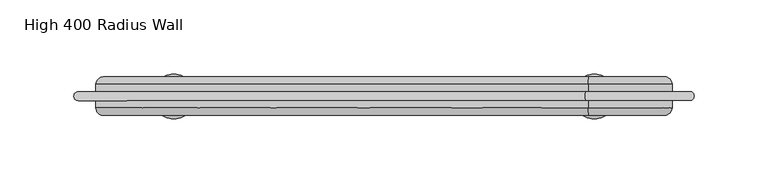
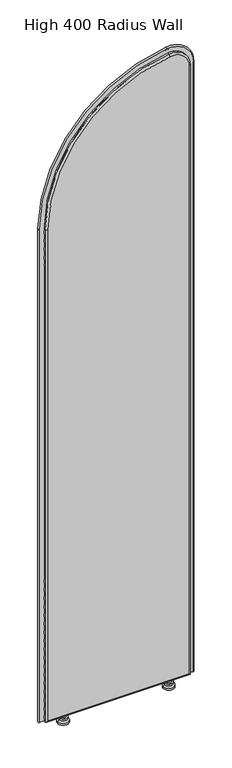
"""IFC4 building model written with IfcOpenShell, lengths in millimetres: furniture geometry, DBLTD_Sixteen3_PrivacyScreens_Artus_ArchRadius : High 400 Radius Wall."""

import ifcopenshell
import ifcopenshell.guid

model = None  # the IFC model being written
_history = None  # IfcOwnerHistory: only IFC2X3 demands one
_inside = {}  # id of a spatial element -> (the spatial element, [elements in it])
_under = {}  # id of a project, library or spatial element -> (it, [spatial elements below it])
_declared = {}  # id of a project -> (the project, [libraries it declares])
_typed = {}  # id of a type object -> (the type object, [elements of that type])
_made_of = {}  # id of a material, layer set ... -> (it, [elements and type objects made of it])


def new_model(schema):
    """Start an empty IFC model of exactly this schema.

    Asked for "IFC4X3", IfcOpenShell would pick the latest addendum, in which some entities
    have other attributes; the version numbers below select the first issue.
    IFC2X3 requires an IfcOwnerHistory on every rooted entity: one is made here for all.
    """
    global model, _history
    if schema == "IFC4X3":
        model = ifcopenshell.file(schema_version=(4, 3, 0, 0))
    else:
        model = ifcopenshell.file(schema=schema)
    _inside.clear()
    _under.clear()
    _declared.clear()
    _typed.clear()
    _made_of.clear()
    _history = None
    if model.schema == "IFC2X3":
        org = make("IfcOrganization", Name="unknown")
        user = make(
            "IfcPersonAndOrganization",
            ThePerson=make("IfcPerson", FamilyName="unknown"),
            TheOrganization=org,
        )
        app = make(
            "IfcApplication",
            ApplicationDeveloper=org,
            Version="unknown",
            ApplicationFullName="unknown",
            ApplicationIdentifier="unknown",
        )
        _history = make(
            "IfcOwnerHistory",
            OwningUser=user,
            OwningApplication=app,
            ChangeAction="ADDED",
            CreationDate=0,
        )
    return model


def make(cls, **values):
    """One entity of the class cls with the attributes given. An attribute that is None is left unset."""
    return model.create_entity(
        cls, **{name: value for name, value in values.items() if value is not None}
    )


def rooted(cls, **values):
    """An entity with a GlobalId (a new one), such as an element, a storey or a relation."""
    return make(cls, GlobalId=ifcopenshell.guid.new(), OwnerHistory=_history, **values)


def si_unit(unit_type, name, prefix=None):
    """IfcSIUnit, for example si_unit("LENGTHUNIT", "METRE", prefix="MILLI")."""
    return make("IfcSIUnit", UnitType=unit_type, Prefix=prefix, Name=name)


def assignment(units):
    """IfcUnitAssignment: the units of a project."""
    return None if units is None else make("IfcUnitAssignment", Units=units)


def point(xyz):
    """IfcCartesianPoint."""
    return None if xyz is None else make("IfcCartesianPoint", Coordinates=xyz)


def direction(xyz):
    """IfcDirection."""
    return None if xyz is None else make("IfcDirection", DirectionRatios=xyz)


def frame(location, z_axis=None, x_axis=None):
    """IfcAxis2Placement3D, a coordinate frame: its origin and axes. An axis left out is left unset."""
    return make(
        "IfcAxis2Placement3D",
        Location=point(location),
        Axis=direction(z_axis),
        RefDirection=direction(x_axis),
    )


def origin():
    """The frame at (0, 0, 0) with its axes left unset."""
    return frame((0.0, 0.0, 0.0))


def place(relative_to, where):
    """IfcLocalPlacement: puts the frame where relative to a parent placement (None: the world)."""
    return make(
        "IfcLocalPlacement", PlacementRelTo=relative_to, RelativePlacement=where
    )


def context(
    kind, dimensions, precision=None, world=None, true_north=None, identifier=None
):
    """IfcGeometricRepresentationContext, for example the 3D "Model" context."""
    return make(
        "IfcGeometricRepresentationContext",
        ContextIdentifier=identifier,
        ContextType=kind,
        CoordinateSpaceDimension=dimensions,
        Precision=precision,
        WorldCoordinateSystem=world,
        TrueNorth=true_north,
    )


def project(units=None, contexts=None):
    """IfcProject with its units and contexts."""
    return rooted(
        "IfcProject",
        Name="project",
        RepresentationContexts=contexts,
        UnitsInContext=assignment(units),
    )


def spatial(cls, under=None, at=None, **own):
    """A site, building, storey or space (cls), placed at a placement, below another one or the project."""
    s = rooted(cls, ObjectPlacement=at, **own)
    if under is not None:
        _under.setdefault(under.id(), (under, []))[1].append(s)
    return s


def polyline(points):
    """IfcPolyline through the points."""
    return make("IfcPolyline", Points=[point(p) for p in points])


def circle_curve(where, radius):
    """IfcCircle in the frame where."""
    return make("IfcCircle", Position=where, Radius=radius)


def ellipse_curve(where, semi_axis1, semi_axis2):
    """IfcEllipse in the frame where."""
    return make(
        "IfcEllipse", Position=where, SemiAxis1=semi_axis1, SemiAxis2=semi_axis2
    )


def trimmed(basis, trim1, trim2, sense, master):
    """IfcTrimmedCurve: the piece of a basis curve between two trims."""
    return make(
        "IfcTrimmedCurve",
        BasisCurve=basis,
        Trim1=trim1,
        Trim2=trim2,
        SenseAgreement=sense,
        MasterRepresentation=master,
    )


def shape(context_of_items, identifier, shape_type, items):
    """IfcShapeRepresentation: the items that make up one representation, for example the "Body"."""
    return make(
        "IfcShapeRepresentation",
        ContextOfItems=context_of_items,
        RepresentationIdentifier=identifier,
        RepresentationType=shape_type,
        Items=items,
    )


def source(mapping_origin, context_of_items, identifier, shape_type, items):
    """IfcRepresentationMap: a shape defined once, which mapped items show again and again."""
    return make(
        "IfcRepresentationMap",
        MappingOrigin=mapping_origin,
        MappedRepresentation=shape(context_of_items, identifier, shape_type, items),
    )


def transform(
    local_origin,
    x_axis=None,
    y_axis=None,
    z_axis=None,
    scale=None,
    scale2=None,
    scale3=None,
    uniform=True,
):
    """IfcCartesianTransformationOperator3D, or its non-uniform kind. x_axis, y_axis, z_axis: its Axis1, 2, 3."""
    if uniform:
        return make(
            "IfcCartesianTransformationOperator3D",
            Axis1=direction(x_axis),
            Axis2=direction(y_axis),
            LocalOrigin=point(local_origin),
            Scale=scale,
            Axis3=direction(z_axis),
        )
    return make(
        "IfcCartesianTransformationOperator3DnonUniform",
        Axis1=direction(x_axis),
        Axis2=direction(y_axis),
        LocalOrigin=point(local_origin),
        Scale=scale,
        Axis3=direction(z_axis),
        Scale2=scale2,
        Scale3=scale3,
    )


def mapped(mapping_source, mapping_target):
    """IfcMappedItem: shows the shape of a source again, moved by a transform."""
    return make(
        "IfcMappedItem", MappingSource=mapping_source, MappingTarget=mapping_target
    )


def made_of(thing, what):
    """Note that an element or type object is made of a material, layer set ...; save() writes the relation."""
    if what is not None:
        _made_of.setdefault(what.id(), (what, []))[1].append(thing)
    return thing


def element(
    cls,
    number,
    at=None,
    inside=None,
    cuts=None,
    type_object=None,
    material=None,
    context=None,
    identifier="Body",
    shape_type=None,
    held_by="IfcProductDefinitionShape",
    body=None,
    shapes=None,
    **own,
):
    """One element of the class cls, such as IfcWall. Its Tag is "e" and its number.

    at: its placement. inside: the storey or other place that contains it. cuts: it is an
    opening in that element (IfcRelVoidsElement). A single representation is given by context,
    identifier, shape_type and body (its items); several are given by shapes. held_by: the class
    of the entity that holds the representations. save() writes the other relations.
    """
    e = rooted(cls, Tag="e%d" % number, ObjectPlacement=at, **own)
    if body is not None:
        shapes = [shape(context, identifier, shape_type, body)]
    if shapes is not None:
        e.Representation = make(held_by, Representations=shapes)
    if inside is not None:
        _inside.setdefault(inside.id(), (inside, []))[1].append(e)
    if cuts is not None:
        rooted(
            "IfcRelVoidsElement", RelatingBuildingElement=cuts, RelatedOpeningElement=e
        )
    if type_object is not None:
        _typed.setdefault(type_object.id(), (type_object, []))[1].append(e)
    return made_of(e, material)


def aggregate(whole, parts):
    """IfcRelAggregates: a whole, such as a stair, and the parts it consists of."""
    return rooted("IfcRelAggregates", RelatingObject=whole, RelatedObjects=parts)


def save(model, path):
    """Write the relations noted so far, then the file.

    IfcRelAggregates (storeys below a building ...), IfcRelContainedInSpatialStructure (elements
    in a storey), IfcRelDefinesByType, IfcRelAssociatesMaterial and IfcRelDeclares: one each for
    every whole, place, type object, material and project.
    """
    for whole, parts in _under.values():
        aggregate(whole, parts)
    for where, things in _inside.values():
        rooted(
            "IfcRelContainedInSpatialStructure",
            RelatedElements=things,
            RelatingStructure=where,
        )
    for kind, things in _typed.values():
        rooted("IfcRelDefinesByType", RelatedObjects=things, RelatingType=kind)
    for what, things in _made_of.values():
        rooted("IfcRelAssociatesMaterial", RelatedObjects=things, RelatingMaterial=what)
    for by, libraries in _declared.values():
        rooted("IfcRelDeclares", RelatingContext=by, RelatedDefinitions=libraries)
    model.write(path)


def plane_surface(at):
    """IfcPlane: the flat surface through the origin of the frame at, square to its z axis."""
    return make("IfcPlane", Position=at)


def cylinder_surface(at, radius):
    """IfcCylindricalSurface: all points at the distance radius from the z axis of the frame at."""
    return make("IfcCylindricalSurface", Position=at, Radius=radius)


def revolved_surface(curve, axis_point, axis_direction):
    """IfcSurfaceOfRevolution: the curve turned about the line through axis_point along axis_direction."""
    return make(
        "IfcSurfaceOfRevolution",
        SweptCurve=make("IfcArbitraryOpenProfileDef", ProfileType="CURVE", Curve=curve),
        AxisPosition=make("IfcAxis1Placement", Location=point(axis_point), Axis=direction(axis_direction)),
    )


def advanced_brep(points, edges, surfaces, faces):
    """IfcAdvancedBrep: a solid bounded by faces that lie on surfaces and meet in shared edges.

    An edge is (start, end): straight between two places in points (the first is 0);
    or (start, end, curve); or (start, end, curve, False) where it runs against its curve.
    A face is (place in surfaces, loops), or (place, loops, False) where it looks against
    its surface's normal. A loop lists edges by number (the first is 1), with a minus sign
    where the edge is run from its end to its start. The first loop is the outer one.
    """
    corners = [point(p) for p in points]
    vertices = [make("IfcVertexPoint", VertexGeometry=c) for c in corners]
    made = []
    for start, end, *more in edges:
        made.append(
            make(
                "IfcEdgeCurve",
                EdgeStart=vertices[start],
                EdgeEnd=vertices[end],
                EdgeGeometry=more[0] if more else make("IfcPolyline", Points=[corners[start], corners[end]]),
                SameSense=more[1] if len(more) > 1 else True,
            )
        )
    hull = []
    for where, loops, *sense in faces:
        bounds = []
        for j, loop in enumerate(loops):
            ring = [make("IfcOrientedEdge", EdgeElement=made[abs(k) - 1], Orientation=k > 0) for k in loop]
            bounds.append(
                make(
                    "IfcFaceOuterBound" if j == 0 else "IfcFaceBound",
                    Bound=make("IfcEdgeLoop", EdgeList=ring),
                    Orientation=True,
                )
            )
        hull.append(make("IfcAdvancedFace", Bounds=bounds, FaceSurface=surfaces[where], SameSense=sense[0] if sense else True))
    return make("IfcAdvancedBrep", Outer=make("IfcClosedShell", CfsFaces=hull))


def high_400_radius_wall_c7d0d529(model_context):
    return source(origin(), model_context, "Body", "AdvancedBrep", [
        advanced_brep(
        [(-190.0, 807.0000009, 27.0), (190.0, 807.0000009, 27.0), (190.0, 807.0000009, 1756.9638535), (138.9552239, 807.0000009, 1801.5560129), (-190.0, 807.0000009, 1425.0), (190.0, 833.0000009, 27.0), (-190.0, 833.0000009, 27.0), (-190.0, 833.0000009, 1425.0), (138.9552239, 833.0000009, 1801.5560129), (190.0, 833.0000009, 1756.9638535), (138.2835821, 811.9999969, 1806.5106973), (138.2835821, 828.0000009, 1806.5106973), (-195.0, 828.0000009, 1425.0), (-195.0, 811.9999981, 1425.0), (-195.0, 828.0000009, 22.0), (-195.0, 812.0000009, 22.0), (195.0, 828.0000009, 22.0), (195.0, 812.0000009, 22.0), (195.0, 828.0000009, 1756.9638535), (195.0, 812.0000009, 1756.9638535)],
        [
            (0, 1),
            (1, 2),
            (2, 3, circle_curve(frame((145.0, 807.0000009, 1756.9638535), z_axis=(0.0, -1.0, 0.0), x_axis=(1.0, 0.0, 0.0)), 45.0)),
            (3, 4, circle_curve(frame((190.0, 807.0000009, 1425.0), z_axis=(0.0, -1.0, 0.0), x_axis=(-0.1343283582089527, 0.0, 0.9909368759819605)), 380.0)),
            (4, 0),
            (5, 6),
            (6, 7),
            (7, 8, circle_curve(frame((190.0, 833.0000009, 1425.0), z_axis=(0.0, 1.0, 0.0), x_axis=(-0.1343283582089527, 0.0, 0.9909368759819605)), 380.0)),
            (8, 9, circle_curve(frame((145.0, 833.0000009, 1756.9638535), z_axis=(0.0, 1.0, 0.0), x_axis=(1.0, 0.0, 0.0)), 45.0)),
            (9, 5),
            (10, 11),
            (11, 12, circle_curve(frame((190.0, 828.0000009, 1425.0), z_axis=(0.0, -1.0, 0.0), x_axis=(1.0, 0.0, 0.0)), 385.0)),
            (12, 13),
            (13, 10, circle_curve(frame((190.0, 812.0000009, 1425.0), z_axis=(0.0, 1.0, 0.0), x_axis=(1.0, 0.0, 0.0)), 385.0)),
            (12, 14),
            (14, 15),
            (15, 13),
            (14, 16),
            (16, 17),
            (17, 15),
            (16, 18),
            (18, 19),
            (19, 17),
            (10, 19, circle_curve(frame((145.0, 812.0000009, 1756.9638535), z_axis=(0.0, 1.0, 0.0), x_axis=(1.0, 0.0, 0.0)), 50.0)),
            (18, 11, circle_curve(frame((145.0, 828.0000009, 1756.9638535), z_axis=(0.0, -1.0, 0.0), x_axis=(1.0, 0.0, 0.0)), 50.0)),
            (17, 1, ellipse_curve(frame((190.0, 812.0000009, 27.0), z_axis=(-0.7071067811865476, 0.0, -0.7071067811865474), x_axis=(0.7071067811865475, 0.0, -0.7071067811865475)), 7.0710678, 5.0)),
            (0, 15, ellipse_curve(frame((-190.0, 812.0000009, 27.0), z_axis=(0.7071067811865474, 0.0, -0.7071067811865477), x_axis=(0.7071067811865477, 0.0, 0.7071067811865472)), 7.0710678, 5.0)),
            (5, 16, ellipse_curve(frame((190.0, 828.0000009, 27.0), z_axis=(-0.7071067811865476, 0.0, -0.7071067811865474), x_axis=(0.7071067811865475, 0.0, -0.7071067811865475)), 7.0710678, 5.0)),
            (14, 6, ellipse_curve(frame((-190.0, 828.0000009, 27.0), z_axis=(0.7071067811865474, 0.0, -0.7071067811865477), x_axis=(0.7071067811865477, 0.0, 0.7071067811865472)), 7.0710678, 5.0)),
            (19, 2, circle_curve(frame((190.0, 812.0000009, 1756.9638535), z_axis=(0.0, 0.0, -1.0), x_axis=(1.0, 0.0, 0.0)), 5.0)),
            (9, 18, circle_curve(frame((190.0, 828.0000009, 1756.9638535), z_axis=(0.0, 0.0, -1.0), x_axis=(1.0, 0.0, 0.0)), 5.0)),
            (10, 3, circle_curve(frame((138.9552239, 812.0000009, 1801.5560129), z_axis=(0.9909368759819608, 0.0, 0.1343283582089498), x_axis=(-0.1343283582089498, 0.0, 0.9909368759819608)), 5.0)),
            (8, 11, circle_curve(frame((138.9552239, 828.0000009, 1801.5560129), z_axis=(0.9909368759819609, 0.0, 0.1343283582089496), x_axis=(-0.1343283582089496, 0.0, 0.9909368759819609)), 5.0)),
            (13, 4, circle_curve(frame((-190.0, 812.0000009, 1425.0), z_axis=(0.0, 0.0, 1.0), x_axis=(-1.0, 0.0, 0.0)), 5.0)),
            (7, 12, circle_curve(frame((-190.0, 828.0000009, 1425.0), z_axis=(0.0, 0.0, 1.0), x_axis=(-1.0, 0.0, 0.0)), 5.0)),
        ],
        [
            plane_surface(frame((-195.0, 807.0000009, 22.0), z_axis=(0.0, -1.0, 0.0), x_axis=(0.0, 0.0, -1.0))),
            plane_surface(frame((-195.0, 833.0000009, 22.0), z_axis=(0.0, 1.0, 0.0), x_axis=(0.0, 0.0, 1.0))),
            cylinder_surface(frame((190.0, 833.0000009, 1425.0), z_axis=(0.0, -1.0, 0.0), x_axis=(1.0, 0.0, 0.0)), 385.0),
            plane_surface(frame((-195.0, 807.0000009, 1425.0), z_axis=(-1.0, 0.0, 0.0), x_axis=(0.0, 1.0, 0.0))),
            plane_surface(frame((-195.0, 807.0000009, 22.0), z_axis=(0.0, 0.0, -1.0), x_axis=(0.0, 1.0, 0.0))),
            plane_surface(frame((195.0, 807.0000009, 22.0), z_axis=(1.0, 0.0, 0.0), x_axis=(0.0, 1.0, 0.0))),
            cylinder_surface(frame((145.0, 833.0000009, 1756.9638535), z_axis=(0.0, -1.0, 0.0), x_axis=(1.0, 0.0, 0.0)), 50.0),
            cylinder_surface(frame((-195.0, 812.0000009, 27.0), z_axis=(1.0, 0.0, 0.0), x_axis=(0.0, 0.0, -1.0)), 5.0),
            cylinder_surface(frame((-195.0, 828.0000009, 27.0), z_axis=(1.0, 0.0, 0.0), x_axis=(0.0, 0.0, -1.0)), 5.0),
            cylinder_surface(frame((190.0, 812.0000009, 22.0), z_axis=(0.0, 0.0, 1.0), x_axis=(1.0, 0.0, 0.0)), 5.0),
            cylinder_surface(frame((190.0, 828.0000009, 22.0), z_axis=(0.0, 0.0, 1.0), x_axis=(1.0, 0.0, 0.0)), 5.0),
            revolved_surface(trimmed(ellipse_curve(frame((190.0, 812.0000009, 1756.9638535), z_axis=(0.0, 0.0, -1.0), x_axis=(1.0, 0.0, 0.0)), 5.0, 5.0), [point((195.0, 812.0000009, 1756.9638535))], [point((190.0, 807.0000009, 1756.9638535))], True, "CARTESIAN"), (145.0, 807.0000009, 1756.9638535), (0.0, -1.0, 0.0)),
            revolved_surface(trimmed(ellipse_curve(frame((190.0, 828.0000009, 1756.9638535), z_axis=(0.0, 0.0, -1.0), x_axis=(1.0, 0.0, 0.0)), 5.0, 5.0), [point((190.0, 833.0000009, 1756.9638535))], [point((195.0, 828.0000009, 1756.9638535))], True, "CARTESIAN"), (145.0, 807.0000009, 1756.9638535), (0.0, -1.0, 0.0)),
            revolved_surface(trimmed(ellipse_curve(frame((138.9552239, 812.0000009, 1801.5560129), z_axis=(0.9909368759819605, 0.0, 0.13432835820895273), x_axis=(-0.13432835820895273, 0.0, 0.9909368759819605)), 5.0, 5.0), [point((138.2835821, 812.0000009, 1806.5106973))], [point((138.9552239, 807.0000009, 1801.5560129))], True, "CARTESIAN"), (190.0, 807.0000009, 1425.0), (0.0, -1.0, 0.0)),
            revolved_surface(trimmed(ellipse_curve(frame((138.9552239, 828.0000009, 1801.5560129), z_axis=(0.9909368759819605, 0.0, 0.13432835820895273), x_axis=(-0.13432835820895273, 0.0, 0.9909368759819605)), 5.0, 5.0), [point((138.9552239, 833.0000009, 1801.5560129))], [point((138.2835821, 828.0000009, 1806.5106973))], True, "CARTESIAN"), (190.0, 807.0000009, 1425.0), (0.0, -1.0, 0.0)),
            cylinder_surface(frame((-190.0, 812.0000009, 1425.0), z_axis=(0.0, 0.0, -1.0), x_axis=(-1.0, 0.0, 0.0)), 5.0),
            cylinder_surface(frame((-190.0, 828.0000009, 1425.0), z_axis=(0.0, 0.0, -1.0), x_axis=(-1.0, 0.0, 0.0)), 5.0),
        ],
        [
            (0, [[1, 2, 3, 4, 5]]),
            (1, [[6, 7, 8, 9, 10]]),
            (2, [[11, 12, 13, 14]]),
            (3, [[-13, 15, 16, 17]]),
            (4, [[-16, 18, 19, 20]]),
            (5, [[-19, 21, 22, 23]]),
            (6, [[-11, 24, -22, 25]]),
            (7, [[26, -1, 27, -20]]),
            (8, [[28, -18, 29, -6]]),
            (9, [[-26, -23, 30, -2]]),
            (10, [[-28, -10, 31, -21]]),
            (11, [[-30, -24, 32, -3]]),
            (12, [[-31, -9, 33, -25]]),
            (13, [[-32, -14, 34, -4]]),
            (14, [[-33, -8, 35, -12]]),
            (15, [[-27, -5, -34, -17]]),
            (16, [[-29, -15, -35, -7]]),
        ],
    ),
        advanced_brep(
        [(206.9577057, 823.0000009, 22.0), (206.9577057, 817.0000009, 22.0), (195.0, 817.0000009, 22.0), (195.0, 823.0000009, 22.0), (-206.9577057, 823.0000009, 22.0), (-195.0, 823.0000009, 22.0), (-195.0, 817.0000009, 22.0), (-206.9577057, 817.0000009, 22.0), (206.9577057, 823.0000009, 1756.9638535), (206.9577057, 817.0000009, 1756.9638535), (136.6773231, 817.0000009, 1818.3600288), (-206.9577057, 817.0000009, 1425.0), (-195.0, 817.0000009, 1425.0), (138.2835821, 817.0000009, 1806.5106973), (195.0, 817.0000009, 1756.9638535), (195.0, 823.0000009, 1756.9638535), (138.2835821, 823.0000009, 1806.5106973), (-195.0, 823.0000009, 1425.0), (-206.9577057, 823.0000009, 1425.0), (136.6773231, 823.0000009, 1818.3600288)],
        [
            (0, 1, circle_curve(frame((206.9577057, 820.0000009, 22.0), z_axis=(0.0, 0.0, -1.0), x_axis=(1.0, 0.0, 0.0)), 3.0)),
            (1, 2),
            (2, 3),
            (3, 0),
            (4, 5),
            (5, 6),
            (6, 7),
            (7, 4, circle_curve(frame((-206.9577057, 820.0000009, 22.0), z_axis=(0.0, 0.0, -1.0), x_axis=(-1.0, 0.0, 0.0)), 3.0)),
            (0, 8),
            (8, 9, circle_curve(frame((206.9577057, 820.0000009, 1756.9638535), z_axis=(0.0, 0.0, -1.0), x_axis=(1.0, 0.0, 0.0)), 3.0)),
            (9, 1),
            (9, 10, circle_curve(frame((145.0, 817.0000009, 1756.9638535), z_axis=(0.0, -1.0, 0.0), x_axis=(1.0, 0.0, 0.0)), 61.9577057)),
            (10, 11, circle_curve(frame((190.0, 817.0000009, 1425.0), z_axis=(0.0, -1.0, 0.0), x_axis=(-0.1343283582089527, 0.0, 0.9909368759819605)), 396.9577057)),
            (11, 7),
            (6, 12),
            (12, 13, circle_curve(frame((190.0, 817.0000009, 1425.0), z_axis=(0.0, 1.0, 0.0), x_axis=(-0.1343283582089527, 0.0, 0.9909368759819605)), 385.0)),
            (13, 14, circle_curve(frame((145.0, 817.0000009, 1756.9638535), z_axis=(0.0, 1.0, 0.0), x_axis=(1.0, 0.0, 0.0)), 50.0)),
            (14, 2),
            (14, 15),
            (15, 3),
            (15, 16, circle_curve(frame((145.0, 823.0000009, 1756.9638535), z_axis=(0.0, -1.0, 0.0), x_axis=(1.0, 0.0, 0.0)), 50.0)),
            (16, 17, circle_curve(frame((190.0, 823.0000009, 1425.0), z_axis=(0.0, -1.0, 0.0), x_axis=(-0.1343283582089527, 0.0, 0.9909368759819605)), 385.0)),
            (17, 5),
            (4, 18),
            (18, 19, circle_curve(frame((190.0, 823.0000009, 1425.0), z_axis=(0.0, 1.0, 0.0), x_axis=(-0.1343283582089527, 0.0, 0.9909368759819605)), 396.9577057)),
            (19, 8, circle_curve(frame((145.0, 823.0000009, 1756.9638535), z_axis=(0.0, 1.0, 0.0), x_axis=(1.0, 0.0, 0.0)), 61.9577057)),
            (19, 10, circle_curve(frame((136.6773231, 820.0000009, 1818.3600288), z_axis=(0.9909368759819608, 0.0, 0.1343283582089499), x_axis=(-0.1343283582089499, 0.0, 0.9909368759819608)), 3.0)),
            (13, 16),
            (18, 11, circle_curve(frame((-206.9577057, 820.0000009, 1425.0), z_axis=(0.0, 0.0, 1.0), x_axis=(-1.0, 0.0, 0.0)), 3.0)),
            (12, 17),
        ],
        [
            plane_surface(frame((195.0, 807.0000009, 22.0), z_axis=(0.0, 0.0, -1.0), x_axis=(1.0, 0.0, 0.0))),
            plane_surface(frame((-195.0, 807.0000009, 22.0), z_axis=(0.0, 0.0, -1.0), x_axis=(-1.0, 0.0, 0.0))),
            cylinder_surface(frame((206.9577057, 820.0000009, 22.0), z_axis=(0.0, 0.0, -1.0), x_axis=(1.0, 0.0, 0.0)), 3.0),
            plane_surface(frame((206.9577057, 817.0000009, 22.0), z_axis=(0.0, -1.0, 0.0), x_axis=(0.0, 0.0, 1.0))),
            plane_surface(frame((195.0, 817.0000009, 22.0), z_axis=(-1.0, 0.0, 0.0), x_axis=(0.0, 0.0, 1.0))),
            plane_surface(frame((195.0, 823.0000009, 22.0), z_axis=(0.0, 1.0, 0.0), x_axis=(0.0, 0.0, 1.0))),
            revolved_surface(trimmed(ellipse_curve(frame((206.9577057, 820.0000009, 1756.9638535), z_axis=(0.0, 0.0, -1.0), x_axis=(1.0, 0.0, 0.0)), 3.0, 3.0), [point((206.9577057, 823.0000009, 1756.9638535))], [point((206.9577057, 817.0000009, 1756.9638535))], True, "CARTESIAN"), (145.0, 807.0000009, 1756.9638535), (0.0, -1.0, 0.0)),
            revolved_surface(polyline([(195.0, 817.0000009, 1756.9638535), (195.0, 823.0000009, 1756.9638535)]), (145.0, 807.0000009, 1756.9638535), (0.0, -1.0, 0.0)),
            revolved_surface(trimmed(ellipse_curve(frame((136.6773231, 820.0000009, 1818.3600288), z_axis=(0.9909368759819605, 0.0, 0.1343283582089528), x_axis=(-0.1343283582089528, 0.0, 0.9909368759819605)), 3.0, 3.0), [point((136.6773231, 823.0000009, 1818.3600288))], [point((136.6773231, 817.0000009, 1818.3600288))], True, "CARTESIAN"), (190.0, 807.0000009, 1425.0), (0.0, -1.0, 0.0)),
            revolved_surface(polyline([(138.28358208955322, 817.0000009, 1806.5106972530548), (138.28358208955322, 823.0000009, 1806.5106972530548)]), (190.0, 807.0000009, 1425.0), (0.0, -1.0, 0.0)),
            cylinder_surface(frame((-206.9577057, 820.0000009, 1425.0), z_axis=(0.0, 0.0, 1.0), x_axis=(-1.0, 0.0, 0.0)), 3.0),
            plane_surface(frame((-195.0, 817.0000009, 1425.0), z_axis=(1.0, 0.0, 0.0), x_axis=(0.0, 0.0, -1.0))),
        ],
        [
            (0, [[1, 2, 3, 4]]),
            (1, [[5, 6, 7, 8]]),
            (2, [[-1, 9, 10, 11]]),
            (3, [[-2, -11, 12, 13, 14, -7, 15, 16, 17, 18]]),
            (4, [[-3, -18, 19, 20]]),
            (5, [[-4, -20, 21, 22, 23, -5, 24, 25, 26, -9]]),
            (6, [[-12, -10, -26, 27]]),
            (7, [[-21, -19, -17, 28]]),
            (8, [[-13, -27, -25, 29]]),
            (9, [[-22, -28, -16, 30]]),
            (10, [[-29, -24, -8, -14]]),
            (11, [[-30, -15, -6, -23]]),
        ],
    ),
        advanced_brep(
        [(142.2938623, 820.0, 22.0), (149.2938623, 820.0, 22.0), (135.2938623, 820.0, 22.0), (149.2938623, 820.0, 15.0), (135.2938623, 820.0, 15.0), (153.744562, 820.0, 15.0), (130.8431626, 820.0, 15.0), (153.744562, 820.0, 10.0), (130.8431626, 820.0, 10.0), (157.2938623, 820.0, 5.0), (127.2938623, 820.0, 5.0), (157.2938623, 820.0, 0.0), (127.2938623, 820.0, 0.0), (142.2938623, 820.0, 0.0)],
        [
            (0, 1),
            (1, 2, circle_curve(frame((142.2938623, 820.0, 22.0), z_axis=(0.0, 0.0, 1.0), x_axis=(1.0, 0.0, 0.0)), 7.0)),
            (2, 0),
            (2, 1, circle_curve(frame((142.2938623, 820.0, 22.0), z_axis=(0.0, 0.0, 1.0), x_axis=(1.0, 0.0, 0.0)), 7.0)),
            (1, 3),
            (3, 4, circle_curve(frame((142.2938623, 820.0, 15.0), z_axis=(0.0, 0.0, 1.0), x_axis=(1.0, 0.0, 0.0)), 7.0)),
            (4, 2),
            (4, 3, circle_curve(frame((142.2938623, 820.0, 15.0), z_axis=(0.0, 0.0, 1.0), x_axis=(1.0, 0.0, 0.0)), 7.0)),
            (3, 5),
            (5, 6, circle_curve(frame((142.2938623, 820.0, 15.0), z_axis=(0.0, 0.0, 1.0), x_axis=(1.0, 0.0, 0.0)), 11.4506997)),
            (6, 4),
            (6, 5, circle_curve(frame((142.2938623, 820.0, 15.0), z_axis=(0.0, 0.0, 1.0), x_axis=(1.0, 0.0, 0.0)), 11.4506997)),
            (5, 7),
            (7, 8, circle_curve(frame((142.2938623, 820.0, 10.0), z_axis=(0.0, 0.0, 1.0), x_axis=(1.0, 0.0, 0.0)), 11.4506997)),
            (8, 6),
            (8, 7, circle_curve(frame((142.2938623, 820.0, 10.0), z_axis=(0.0, 0.0, 1.0), x_axis=(1.0, 0.0, 0.0)), 11.4506997)),
            (7, 9),
            (9, 10, circle_curve(frame((142.2938623, 820.0, 5.0), z_axis=(0.0, 0.0, 1.0), x_axis=(1.0, 0.0, 0.0)), 15.0)),
            (10, 8),
            (10, 9, circle_curve(frame((142.2938623, 820.0, 5.0), z_axis=(0.0, 0.0, 1.0), x_axis=(1.0, 0.0, 0.0)), 15.0)),
            (9, 11),
            (11, 12, circle_curve(frame((142.2938623, 820.0, 0.0), z_axis=(0.0, 0.0, 1.0), x_axis=(1.0, 0.0, 0.0)), 15.0)),
            (12, 10),
            (12, 11, circle_curve(frame((142.2938623, 820.0, 0.0), z_axis=(0.0, 0.0, 1.0), x_axis=(1.0, 0.0, 0.0)), 15.0)),
            (11, 13),
            (13, 12),
        ],
        [
            plane_surface(frame((142.2938623, 820.0, 22.0), z_axis=(0.0, 0.0, 1.0), x_axis=(1.0, 0.0, 0.0))),
            cylinder_surface(frame((142.2938623, 820.0, 5.0), z_axis=(0.0, 0.0, 1.0), x_axis=(1.0, 0.0, 0.0)), 7.0),
            plane_surface(frame((142.2938623, 820.0, 15.0), z_axis=(0.0, 0.0, 1.0), x_axis=(1.0, 0.0, 0.0))),
            cylinder_surface(frame((142.2938623, 820.0, 5.0), z_axis=(0.0, 0.0, 1.0), x_axis=(1.0, 0.0, 0.0)), 11.4506997),
            revolved_surface(polyline([(157.2938623, 820.0, 5.0), (153.744562, 820.0, 10.0)]), (142.2938623, 820.0, 5.0), (0.0, 0.0, 1.0)),
            cylinder_surface(frame((142.2938623, 820.0, 5.0), z_axis=(0.0, 0.0, 1.0), x_axis=(1.0, 0.0, 0.0)), 15.0),
            plane_surface(frame((142.2938623, 820.0, 0.0), z_axis=(0.0, 0.0, -1.0), x_axis=(1.0, 0.0, 0.0))),
        ],
        [
            (0, [[1, 2, 3]]),
            (0, [[-3, 4, -1]]),
            (1, [[-2, 5, 6, 7]]),
            (1, [[-4, -7, 8, -5]]),
            (2, [[-6, 9, 10, 11]]),
            (2, [[-8, -11, 12, -9]]),
            (3, [[-10, 13, 14, 15]]),
            (3, [[-12, -15, 16, -13]]),
            (4, [[-14, 17, 18, 19]]),
            (4, [[-16, -19, 20, -17]]),
            (5, [[-18, 21, 22, 23]]),
            (5, [[-20, -23, 24, -21]]),
            (6, [[-22, 25, 26]]),
            (6, [[-24, -26, -25]]),
        ],
    ),
        advanced_brep(
        [(-135.2938623, 820.0, 22.0), (-149.2938623, 820.0, 22.0), (-142.2938623, 820.0, 22.0), (-135.2938623, 820.0, 15.0), (-149.2938623, 820.0, 15.0), (-130.8431626, 820.0, 15.0), (-153.744562, 820.0, 15.0), (-130.8431626, 820.0, 10.0), (-153.744562, 820.0, 10.0), (-127.2938623, 820.0, 5.0), (-157.2938623, 820.0, 5.0), (-127.2938623, 820.0, 0.0), (-157.2938623, 820.0, 0.0), (-142.2938623, 820.0, 0.0)],
        [
            (0, 1, circle_curve(frame((-142.2938623, 820.0, 22.0), z_axis=(0.0, 0.0, 1.0), x_axis=(-1.0, 0.0, 0.0)), 7.0)),
            (1, 2),
            (2, 0),
            (1, 0, circle_curve(frame((-142.2938623, 820.0, 22.0), z_axis=(0.0, 0.0, 1.0), x_axis=(-1.0, 0.0, 0.0)), 7.0)),
            (3, 4, circle_curve(frame((-142.2938623, 820.0, 15.0), z_axis=(0.0, 0.0, 1.0), x_axis=(-1.0, 0.0, 0.0)), 7.0)),
            (4, 1),
            (0, 3),
            (4, 3, circle_curve(frame((-142.2938623, 820.0, 15.0), z_axis=(0.0, 0.0, 1.0), x_axis=(-1.0, 0.0, 0.0)), 7.0)),
            (5, 6, circle_curve(frame((-142.2938623, 820.0, 15.0), z_axis=(0.0, 0.0, 1.0), x_axis=(-1.0, 0.0, 0.0)), 11.4506997)),
            (6, 4),
            (3, 5),
            (6, 5, circle_curve(frame((-142.2938623, 820.0, 15.0), z_axis=(0.0, 0.0, 1.0), x_axis=(-1.0, 0.0, 0.0)), 11.4506997)),
            (7, 8, circle_curve(frame((-142.2938623, 820.0, 10.0), z_axis=(0.0, 0.0, 1.0), x_axis=(-1.0, 0.0, 0.0)), 11.4506997)),
            (8, 6),
            (5, 7),
            (8, 7, circle_curve(frame((-142.2938623, 820.0, 10.0), z_axis=(0.0, 0.0, 1.0), x_axis=(-1.0, 0.0, 0.0)), 11.4506997)),
            (9, 10, circle_curve(frame((-142.2938623, 820.0, 5.0), z_axis=(0.0, 0.0, 1.0), x_axis=(-1.0, 0.0, 0.0)), 15.0)),
            (10, 8),
            (7, 9),
            (10, 9, circle_curve(frame((-142.2938623, 820.0, 5.0), z_axis=(0.0, 0.0, 1.0), x_axis=(-1.0, 0.0, 0.0)), 15.0)),
            (11, 12, circle_curve(frame((-142.2938623, 820.0, 0.0), z_axis=(0.0, 0.0, 1.0), x_axis=(-1.0, 0.0, 0.0)), 15.0)),
            (12, 10),
            (9, 11),
            (12, 11, circle_curve(frame((-142.2938623, 820.0, 0.0), z_axis=(0.0, 0.0, 1.0), x_axis=(-1.0, 0.0, 0.0)), 15.0)),
            (13, 12),
            (11, 13),
        ],
        [
            plane_surface(frame((-142.2938623, 820.0, 22.0), z_axis=(0.0, 0.0, 1.0), x_axis=(-1.0, 0.0, 0.0))),
            cylinder_surface(frame((-142.2938623, 820.0, 5.0), z_axis=(0.0, 0.0, -1.0), x_axis=(-1.0, 0.0, 0.0)), 7.0),
            plane_surface(frame((-142.2938623, 820.0, 15.0), z_axis=(0.0, 0.0, 1.0), x_axis=(-1.0, 0.0, 0.0))),
            cylinder_surface(frame((-142.2938623, 820.0, 5.0), z_axis=(0.0, 0.0, -1.0), x_axis=(-1.0, 0.0, 0.0)), 11.4506997),
            revolved_surface(polyline([(-153.744562, 820.0, 10.0), (-157.2938623, 820.0, 5.0)]), (-142.2938623, 820.0, 5.0), (0.0, 0.0, -1.0)),
            cylinder_surface(frame((-142.2938623, 820.0, 5.0), z_axis=(0.0, 0.0, -1.0), x_axis=(-1.0, 0.0, 0.0)), 15.0),
            plane_surface(frame((-142.2938623, 820.0, 0.0), z_axis=(0.0, 0.0, -1.0), x_axis=(-1.0, 0.0, 0.0))),
        ],
        [
            (0, [[1, 2, 3]]),
            (0, [[4, -3, -2]]),
            (1, [[5, 6, -1, 7]]),
            (1, [[8, -7, -4, -6]]),
            (2, [[9, 10, -5, 11]]),
            (2, [[12, -11, -8, -10]]),
            (3, [[13, 14, -9, 15]]),
            (3, [[16, -15, -12, -14]]),
            (4, [[17, 18, -13, 19]]),
            (4, [[20, -19, -16, -18]]),
            (5, [[21, 22, -17, 23]]),
            (5, [[24, -23, -20, -22]]),
            (6, [[25, -21, 26]]),
            (6, [[-26, -24, -25]]),
        ],
    ),
    ])


if __name__ == "__main__":
    model = new_model("IFC4")
    model_context = context("Model", 3, world=origin())
    ifc_project = project(units=[si_unit("LENGTHUNIT", "METRE", prefix="MILLI")], contexts=[model_context])
    site = spatial("IfcSite", under=ifc_project)
    building = spatial("IfcBuilding", under=site)
    placement = place(None, origin())
    high_400_radius_wall_shape = high_400_radius_wall_c7d0d529(model_context)
    element("IfcFurniture", 1, ObjectType="DBLTD_Sixteen3_PrivacyScreens_Artus_ArchRadius : High 400 Radius Wall", at=placement, inside=building, context=model_context, shape_type="MappedRepresentation", body=[
        mapped(high_400_radius_wall_shape, transform((0.0, 0.0, 0.0), x_axis=(1.0, 0.0, 0.0), y_axis=(0.0, 1.0, 0.0), z_axis=(0.0, 0.0, 1.0))),
    ])
    save(model, "model.ifc")
